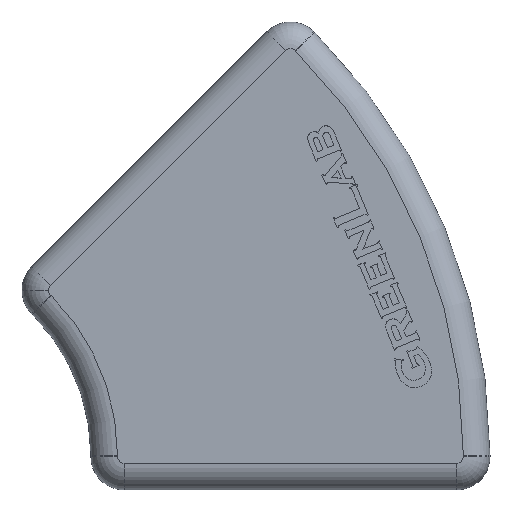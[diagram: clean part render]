
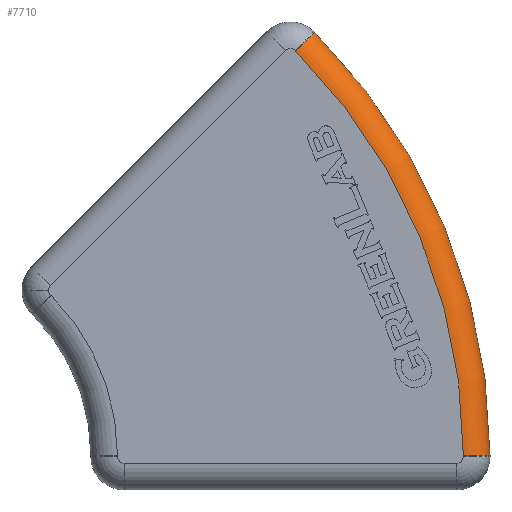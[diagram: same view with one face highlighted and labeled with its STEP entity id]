
A CAD part, top view. The second image highlights one B-rep face of the part: STEP entity #7710.
In plain terms, the highlighted toroidal (fillet/blend) face has major radius 43 mm and minor radius 2 mm.
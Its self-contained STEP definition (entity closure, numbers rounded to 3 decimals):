
#242 = AXIS2_PLACEMENT_3D ( 'NONE', #1916, #9995, #9144 ) ;
#829 = DIRECTION ( 'NONE',  ( 0., 0., 1. ) ) ;
#927 = AXIS2_PLACEMENT_3D ( 'NONE', #3145, #10523, #3100 ) ;
#1328 = ORIENTED_EDGE ( 'NONE', *, *, #2214, .T. ) ;
#1607 = VERTEX_POINT ( 'NONE', #1672 ) ;
#1672 = CARTESIAN_POINT ( 'NONE',  ( 0.406, 17.979, 3. ) ) ;
#1693 = DIRECTION ( 'NONE',  ( 1., 0., 0. ) ) ;
#1916 = CARTESIAN_POINT ( 'NONE',  ( -30., -12.426, 1. ) ) ;
#2183 = VERTEX_POINT ( 'NONE', #7749 ) ;
#2214 = EDGE_CURVE ( 'NONE', #4841, #3685, #6229, .T. ) ;
#2824 = CARTESIAN_POINT ( 'NONE',  ( 15., -12.426, 1. ) ) ;
#2992 = EDGE_CURVE ( 'NONE', #2183, #3685, #4530, .T. ) ;
#3100 = DIRECTION ( 'NONE',  ( 0., 0., 1. ) ) ;
#3145 = CARTESIAN_POINT ( 'NONE',  ( 13., -12.426, 1. ) ) ;
#3188 = AXIS2_PLACEMENT_3D ( 'NONE', #10573, #829, #1693 ) ;
#3260 = AXIS2_PLACEMENT_3D ( 'NONE', #6564, #9723, #9025 ) ;
#3685 = VERTEX_POINT ( 'NONE', #2824 ) ;
#3908 = DIRECTION ( 'NONE',  ( 0.707, -0.707, 0. ) ) ;
#4324 = EDGE_CURVE ( 'NONE', #2183, #1607, #6926, .T. ) ;
#4530 = CIRCLE ( 'NONE', #242, 45. ) ;
#4728 = EDGE_LOOP ( 'NONE', ( #1328, #9149, #10384, #4966 ) ) ;
#4829 = EDGE_CURVE ( 'NONE', #4841, #1607, #6938, .T. ) ;
#4841 = VERTEX_POINT ( 'NONE', #9673 ) ;
#4966 = ORIENTED_EDGE ( 'NONE', *, *, #4829, .F. ) ;
#5283 = TOROIDAL_SURFACE ( 'NONE', #3260, 43., 2. ) ;
#6229 = CIRCLE ( 'NONE', #927, 2. ) ;
#6451 = FACE_OUTER_BOUND ( 'NONE', #4728, .T. ) ;
#6564 = CARTESIAN_POINT ( 'NONE',  ( -30., -12.426, 1. ) ) ;
#6926 = CIRCLE ( 'NONE', #10173, 2. ) ;
#6938 = CIRCLE ( 'NONE', #3188, 43. ) ;
#7169 = CARTESIAN_POINT ( 'NONE',  ( 0.406, 17.979, 1. ) ) ;
#7710 = ADVANCED_FACE ( 'NONE', ( #6451 ), #5283, .T. ) ;
#7749 = CARTESIAN_POINT ( 'NONE',  ( 1.82, 19.393, 1. ) ) ;
#8033 = DIRECTION ( 'NONE',  ( 0.707, 0.707, 0. ) ) ;
#9025 = DIRECTION ( 'NONE',  ( 1., 0., 0. ) ) ;
#9144 = DIRECTION ( 'NONE',  ( 1., 0., 0. ) ) ;
#9149 = ORIENTED_EDGE ( 'NONE', *, *, #2992, .F. ) ;
#9673 = CARTESIAN_POINT ( 'NONE',  ( 13., -12.426, 3. ) ) ;
#9723 = DIRECTION ( 'NONE',  ( 0., 0., 1. ) ) ;
#9995 = DIRECTION ( 'NONE',  ( 0., 0., -1. ) ) ;
#10173 = AXIS2_PLACEMENT_3D ( 'NONE', #7169, #3908, #8033 ) ;
#10384 = ORIENTED_EDGE ( 'NONE', *, *, #4324, .T. ) ;
#10523 = DIRECTION ( 'NONE',  ( 0., 1., 0. ) ) ;
#10573 = CARTESIAN_POINT ( 'NONE',  ( -30., -12.426, 3. ) ) ;
